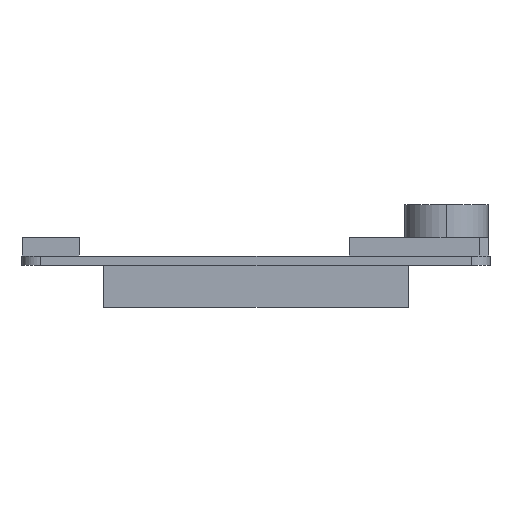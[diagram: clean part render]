
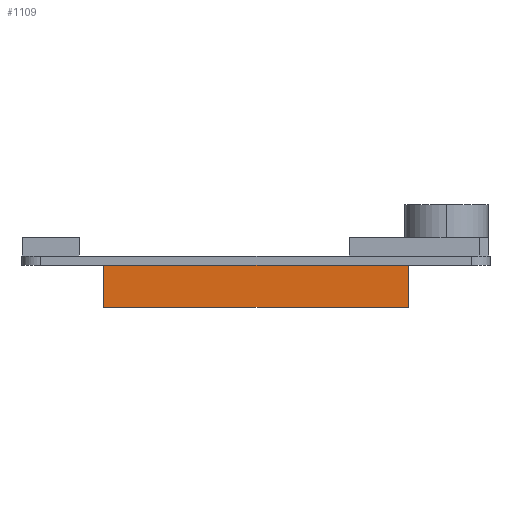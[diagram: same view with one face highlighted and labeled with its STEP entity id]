
A CAD part, left-side view. The second image highlights one B-rep face of the part: STEP entity #1109.
In plain terms, the highlighted planar face has unit normal (-1, 0, 0).
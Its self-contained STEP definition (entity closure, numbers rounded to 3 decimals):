
#255=DIRECTION('',(0.,1.,0.));
#256=VECTOR('',#255,32.52);
#257=CARTESIAN_POINT('',(-15.79,-16.26,-1.));
#258=LINE('',#257,#256);
#331=DIRECTION('',(0.,0.,-1.));
#332=VECTOR('',#331,4.5);
#333=CARTESIAN_POINT('',(-15.79,16.26,-1.));
#334=LINE('',#333,#332);
#335=DIRECTION('',(0.,0.,-1.));
#336=VECTOR('',#335,4.5);
#337=CARTESIAN_POINT('',(-15.79,-16.26,-1.));
#338=LINE('',#337,#336);
#351=DIRECTION('',(0.,1.,0.));
#352=VECTOR('',#351,32.52);
#353=CARTESIAN_POINT('',(-15.79,-16.26,-5.5));
#354=LINE('',#353,#352);
#637=CARTESIAN_POINT('',(-15.79,16.26,-5.5));
#639=VERTEX_POINT('',#637);
#643=CARTESIAN_POINT('',(-15.79,-16.26,-5.5));
#644=VERTEX_POINT('',#643);
#645=CARTESIAN_POINT('',(-15.79,16.26,-1.));
#647=VERTEX_POINT('',#645);
#651=CARTESIAN_POINT('',(-15.79,-16.26,-1.));
#652=VERTEX_POINT('',#651);
#1096=CARTESIAN_POINT('',(-15.79,-16.26,-1.));
#1097=DIRECTION('',(-1.,0.,0.));
#1098=DIRECTION('',(0.,1.,0.));
#1099=AXIS2_PLACEMENT_3D('',#1096,#1097,#1098);
#1100=PLANE('',#1099);
#1101=ORIENTED_EDGE('',*,*,#842,.F.);
#1103=ORIENTED_EDGE('',*,*,#1102,.T.);
#1105=ORIENTED_EDGE('',*,*,#1104,.T.);
#1106=ORIENTED_EDGE('',*,*,#1087,.F.);
#1107=EDGE_LOOP('',(#1101,#1103,#1105,#1106));
#1108=FACE_OUTER_BOUND('',#1107,.F.);
#842=EDGE_CURVE('',#652,#647,#258,.T.);
#1087=EDGE_CURVE('',#647,#639,#334,.T.);
#1102=EDGE_CURVE('',#652,#644,#338,.T.);
#1104=EDGE_CURVE('',#644,#639,#354,.T.);
#1109=ADVANCED_FACE('',(#1108),#1100,.T.);
